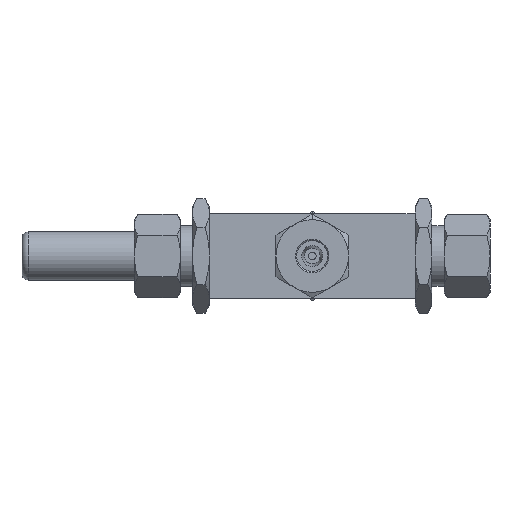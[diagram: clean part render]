
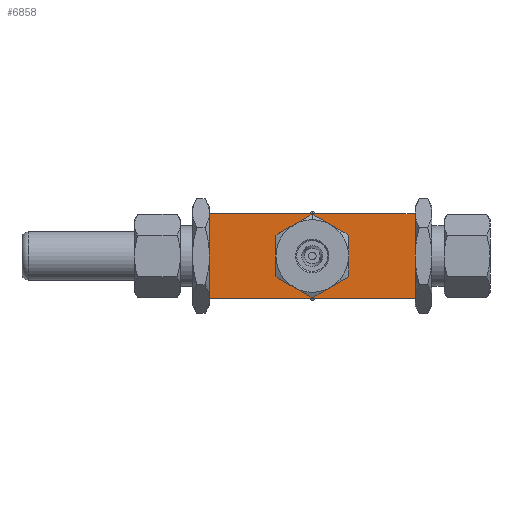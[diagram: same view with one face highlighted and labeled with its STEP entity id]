
A CAD part, front view. The second image highlights one B-rep face of the part: STEP entity #6858.
In plain terms, the highlighted planar face has unit normal (0, -1, 0).
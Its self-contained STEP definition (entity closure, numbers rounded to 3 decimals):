
#139 = VERTEX_POINT ( 'NONE', #219 ) ;
#193 = VERTEX_POINT ( 'NONE', #1261 ) ;
#215 = VERTEX_POINT ( 'NONE', #1863 ) ;
#219 = CARTESIAN_POINT ( 'NONE',  ( 7.5, -32.5, -12.99 ) ) ;
#294 = CARTESIAN_POINT ( 'NONE',  ( 15., -32.5, 0. ) ) ;
#454 = ORIENTED_EDGE ( 'NONE', *, *, #6247, .F. ) ;
#743 = ORIENTED_EDGE ( 'NONE', *, *, #4367, .F. ) ;
#889 = CARTESIAN_POINT ( 'NONE',  ( 0., -32.5, -15. ) ) ;
#941 = AXIS2_PLACEMENT_3D ( 'NONE', #4479, #3056, #6227 ) ;
#1000 = DIRECTION ( 'NONE',  ( 0., 0., -1. ) ) ;
#1082 = CIRCLE ( 'NONE', #2747, 15. ) ;
#1221 = CARTESIAN_POINT ( 'NONE',  ( -15., -32.5, 0. ) ) ;
#1241 = CIRCLE ( 'NONE', #5122, 15. ) ;
#1261 = CARTESIAN_POINT ( 'NONE',  ( 42.5, -32.5, 17.5 ) ) ;
#1321 = FACE_OUTER_BOUND ( 'NONE', #4998, .T. ) ;
#1379 = AXIS2_PLACEMENT_3D ( 'NONE', #4992, #5977, #6467 ) ;
#1583 = CARTESIAN_POINT ( 'NONE',  ( -42.5, -32.5, -17.5 ) ) ;
#1863 = CARTESIAN_POINT ( 'NONE',  ( -7.5, -32.5, -12.99 ) ) ;
#1869 = EDGE_CURVE ( 'NONE', #5788, #5310, #5105, .T. ) ;
#2087 = EDGE_CURVE ( 'NONE', #3811, #215, #1082, .T. ) ;
#2148 = DIRECTION ( 'NONE',  ( 0., -1., 0. ) ) ;
#2202 = DIRECTION ( 'NONE',  ( 0., -1., 0. ) ) ;
#2227 = CARTESIAN_POINT ( 'NONE',  ( 42.5, -32.5, 17.5 ) ) ;
#2273 = ORIENTED_EDGE ( 'NONE', *, *, #5994, .F. ) ;
#2315 = CARTESIAN_POINT ( 'NONE',  ( -42.5, -32.5, 17.5 ) ) ;
#2447 = AXIS2_PLACEMENT_3D ( 'NONE', #5311, #2202, #4105 ) ;
#2498 = CARTESIAN_POINT ( 'NONE',  ( -42.5, -32.5, 17.5 ) ) ;
#2541 = ORIENTED_EDGE ( 'NONE', *, *, #2087, .F. ) ;
#2571 = CIRCLE ( 'NONE', #2447, 15. ) ;
#2573 = DIRECTION ( 'NONE',  ( 0., 0., -1. ) ) ;
#2640 = CARTESIAN_POINT ( 'NONE',  ( 0., -32.5, 0. ) ) ;
#2667 = LINE ( 'NONE', #1583, #4901 ) ;
#2747 = AXIS2_PLACEMENT_3D ( 'NONE', #2640, #6368, #3199 ) ;
#2772 = ORIENTED_EDGE ( 'NONE', *, *, #5011, .F. ) ;
#2831 = DIRECTION ( 'NONE',  ( 0., -1., 0. ) ) ;
#2930 = CIRCLE ( 'NONE', #6838, 15. ) ;
#3056 = DIRECTION ( 'NONE',  ( 0., 1., 0. ) ) ;
#3199 = DIRECTION ( 'NONE',  ( 0., 0., -1. ) ) ;
#3247 = DIRECTION ( 'NONE',  ( 0., 0., -1. ) ) ;
#3370 = ORIENTED_EDGE ( 'NONE', *, *, #6038, .F. ) ;
#3455 = VECTOR ( 'NONE', #4945, 1000. ) ;
#3811 = VERTEX_POINT ( 'NONE', #1221 ) ;
#3894 = CARTESIAN_POINT ( 'NONE',  ( -42.5, -32.5, -17.5 ) ) ;
#3907 = EDGE_CURVE ( 'NONE', #5310, #5731, #2667, .T. ) ;
#3922 = CIRCLE ( 'NONE', #5710, 15. ) ;
#3950 = CARTESIAN_POINT ( 'NONE',  ( 42.5, -32.5, -17.5 ) ) ;
#4072 = DIRECTION ( 'NONE',  ( 0., -1., 0. ) ) ;
#4085 = DIRECTION ( 'NONE',  ( 1., 0., 0. ) ) ;
#4091 = VECTOR ( 'NONE', #4085, 1000. ) ;
#4105 = DIRECTION ( 'NONE',  ( 0., 0., -1. ) ) ;
#4201 = VERTEX_POINT ( 'NONE', #889 ) ;
#4262 = CIRCLE ( 'NONE', #6046, 15. ) ;
#4351 = CARTESIAN_POINT ( 'NONE',  ( -7.5, -32.5, 12.99 ) ) ;
#4367 = EDGE_CURVE ( 'NONE', #193, #5731, #4977, .T. ) ;
#4399 = VERTEX_POINT ( 'NONE', #294 ) ;
#4453 = EDGE_CURVE ( 'NONE', #4399, #4731, #1241, .T. ) ;
#4479 = CARTESIAN_POINT ( 'NONE',  ( -42.5, -32.5, 17.5 ) ) ;
#4499 = CARTESIAN_POINT ( 'NONE',  ( 7.5, -32.5, 12.99 ) ) ;
#4606 = EDGE_CURVE ( 'NONE', #6313, #3811, #2571, .T. ) ;
#4731 = VERTEX_POINT ( 'NONE', #4499 ) ;
#4736 = ORIENTED_EDGE ( 'NONE', *, *, #4453, .F. ) ;
#4846 = CARTESIAN_POINT ( 'NONE',  ( -42.5, -32.5, 17.5 ) ) ;
#4901 = VECTOR ( 'NONE', #5833, 1000. ) ;
#4930 = CIRCLE ( 'NONE', #1379, 15. ) ;
#4945 = DIRECTION ( 'NONE',  ( 0., 0., -1. ) ) ;
#4977 = LINE ( 'NONE', #2227, #3455 ) ;
#4992 = CARTESIAN_POINT ( 'NONE',  ( 0., -32.5, 0. ) ) ;
#4998 = EDGE_LOOP ( 'NONE', ( #5470, #743, #2772, #5477 ) ) ;
#5011 = EDGE_CURVE ( 'NONE', #5788, #193, #5546, .T. ) ;
#5101 = PLANE ( 'NONE',  #941 ) ;
#5105 = LINE ( 'NONE', #2498, #6867 ) ;
#5122 = AXIS2_PLACEMENT_3D ( 'NONE', #6846, #5291, #1000 ) ;
#5200 = ORIENTED_EDGE ( 'NONE', *, *, #6734, .F. ) ;
#5252 = ORIENTED_EDGE ( 'NONE', *, *, #4606, .F. ) ;
#5291 = DIRECTION ( 'NONE',  ( 0., -1., 0. ) ) ;
#5310 = VERTEX_POINT ( 'NONE', #3894 ) ;
#5311 = CARTESIAN_POINT ( 'NONE',  ( 0., -32.5, 0. ) ) ;
#5328 = CARTESIAN_POINT ( 'NONE',  ( 0., -32.5, 0. ) ) ;
#5469 = CARTESIAN_POINT ( 'NONE',  ( 0., -32.5, 0. ) ) ;
#5470 = ORIENTED_EDGE ( 'NONE', *, *, #3907, .T. ) ;
#5477 = ORIENTED_EDGE ( 'NONE', *, *, #1869, .T. ) ;
#5544 = FACE_BOUND ( 'NONE', #5585, .T. ) ;
#5546 = LINE ( 'NONE', #2315, #4091 ) ;
#5570 = DIRECTION ( 'NONE',  ( 0., 0., -1. ) ) ;
#5585 = EDGE_LOOP ( 'NONE', ( #454, #4736, #5200, #3370, #2273, #2541, #5252 ) ) ;
#5710 = AXIS2_PLACEMENT_3D ( 'NONE', #6276, #4072, #6205 ) ;
#5731 = VERTEX_POINT ( 'NONE', #3950 ) ;
#5788 = VERTEX_POINT ( 'NONE', #4846 ) ;
#5833 = DIRECTION ( 'NONE',  ( 1., 0., 0. ) ) ;
#5977 = DIRECTION ( 'NONE',  ( 0., -1., 0. ) ) ;
#5994 = EDGE_CURVE ( 'NONE', #215, #4201, #4262, .T. ) ;
#6038 = EDGE_CURVE ( 'NONE', #4201, #139, #3922, .T. ) ;
#6046 = AXIS2_PLACEMENT_3D ( 'NONE', #5469, #2831, #5570 ) ;
#6205 = DIRECTION ( 'NONE',  ( 0., 0., -1. ) ) ;
#6227 = DIRECTION ( 'NONE',  ( 0., 0., 1. ) ) ;
#6247 = EDGE_CURVE ( 'NONE', #4731, #6313, #2930, .T. ) ;
#6276 = CARTESIAN_POINT ( 'NONE',  ( 0., -32.5, 0. ) ) ;
#6313 = VERTEX_POINT ( 'NONE', #4351 ) ;
#6368 = DIRECTION ( 'NONE',  ( 0., -1., 0. ) ) ;
#6467 = DIRECTION ( 'NONE',  ( 0., 0., -1. ) ) ;
#6734 = EDGE_CURVE ( 'NONE', #139, #4399, #4930, .T. ) ;
#6838 = AXIS2_PLACEMENT_3D ( 'NONE', #5328, #2148, #3247 ) ;
#6846 = CARTESIAN_POINT ( 'NONE',  ( 0., -32.5, 0. ) ) ;
#6858 = ADVANCED_FACE ( 'NONE', ( #1321, #5544 ), #5101, .F. ) ;
#6867 = VECTOR ( 'NONE', #2573, 1000. ) ;
